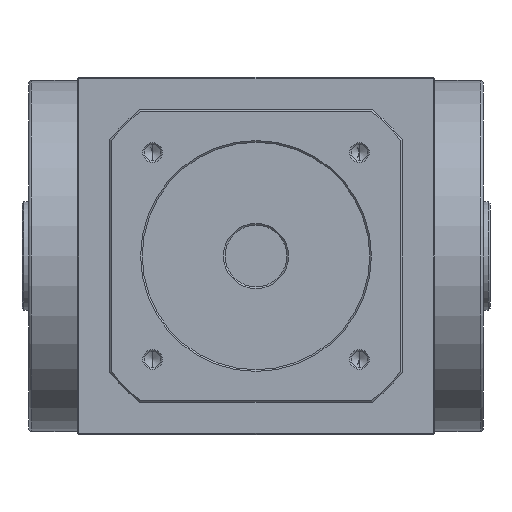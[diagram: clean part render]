
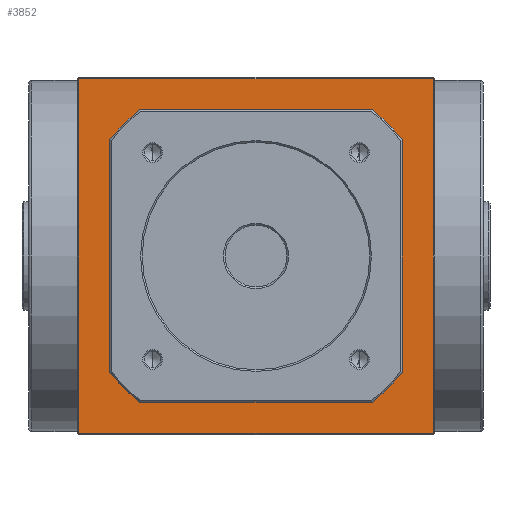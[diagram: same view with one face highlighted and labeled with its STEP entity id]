
A CAD part, front view. The second image highlights one B-rep face of the part: STEP entity #3852.
In plain terms, the highlighted planar face has unit normal (0, -1, 0).
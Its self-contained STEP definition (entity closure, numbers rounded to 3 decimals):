
#112 = VECTOR ( 'NONE', #7198, 1000. ) ;
#231 = EDGE_CURVE ( 'NONE', #8679, #5402, #8681, .T. ) ;
#237 = CARTESIAN_POINT ( 'NONE',  ( 54.5, -55., 54.5 ) ) ;
#287 = EDGE_LOOP ( 'NONE', ( #7212, #5351, #7561, #3769 ) ) ;
#468 = CARTESIAN_POINT ( 'NONE',  ( 0., -55., 0. ) ) ;
#514 = CARTESIAN_POINT ( 'NONE',  ( -45., -55., -35.795 ) ) ;
#528 = AXIS2_PLACEMENT_3D ( 'NONE', #468, #8018, #3981 ) ;
#649 = EDGE_CURVE ( 'NONE', #3460, #3604, #3601, .T. ) ;
#729 = LINE ( 'NONE', #3576, #4612 ) ;
#782 = DIRECTION ( 'NONE',  ( 0., -1., 0. ) ) ;
#880 = DIRECTION ( 'NONE',  ( 0., 0., -1. ) ) ;
#910 = CARTESIAN_POINT ( 'NONE',  ( 55., -55., -54.5 ) ) ;
#962 = EDGE_CURVE ( 'NONE', #3604, #5802, #3587, .T. ) ;
#1121 = VECTOR ( 'NONE', #2288, 1000. ) ;
#1140 = ORIENTED_EDGE ( 'NONE', *, *, #4787, .F. ) ;
#1145 = AXIS2_PLACEMENT_3D ( 'NONE', #2861, #782, #880 ) ;
#1239 = CARTESIAN_POINT ( 'NONE',  ( 45., -55., -35.795 ) ) ;
#1272 = DIRECTION ( 'NONE',  ( 0., 0., 1. ) ) ;
#1367 = DIRECTION ( 'NONE',  ( -1., 0., 0. ) ) ;
#1485 = CIRCLE ( 'NONE', #5918, 57.5 ) ;
#1486 = DIRECTION ( 'NONE',  ( 0., 0., 1. ) ) ;
#1598 = CARTESIAN_POINT ( 'NONE',  ( 0., -55., 0. ) ) ;
#1725 = PLANE ( 'NONE',  #4524 ) ;
#1805 = DIRECTION ( 'NONE',  ( 0., 0., 1. ) ) ;
#1850 = CARTESIAN_POINT ( 'NONE',  ( -45., -55., 35.795 ) ) ;
#1870 = CARTESIAN_POINT ( 'NONE',  ( -54.5, -55., 54.5 ) ) ;
#1920 = ORIENTED_EDGE ( 'NONE', *, *, #5843, .F. ) ;
#2193 = CARTESIAN_POINT ( 'NONE',  ( 54.5, -55., -54.5 ) ) ;
#2206 = VERTEX_POINT ( 'NONE', #7118 ) ;
#2223 = DIRECTION ( 'NONE',  ( 0., 0., -1. ) ) ;
#2266 = DIRECTION ( 'NONE',  ( 0., -1., 0. ) ) ;
#2288 = DIRECTION ( 'NONE',  ( 0., 0., -1. ) ) ;
#2319 = VECTOR ( 'NONE', #1272, 1000. ) ;
#2663 = CARTESIAN_POINT ( 'NONE',  ( 54.5, -55., 55. ) ) ;
#2675 = CIRCLE ( 'NONE', #3253, 57.5 ) ;
#2714 = VERTEX_POINT ( 'NONE', #6323 ) ;
#2861 = CARTESIAN_POINT ( 'NONE',  ( 0., -55., 0. ) ) ;
#3090 = EDGE_CURVE ( 'NONE', #5802, #6025, #3840, .T. ) ;
#3253 = AXIS2_PLACEMENT_3D ( 'NONE', #1598, #2266, #4299 ) ;
#3362 = CARTESIAN_POINT ( 'NONE',  ( -55., -55., 54.5 ) ) ;
#3368 = VECTOR ( 'NONE', #1367, 1000. ) ;
#3460 = VERTEX_POINT ( 'NONE', #7731 ) ;
#3524 = VECTOR ( 'NONE', #8756, 1000. ) ;
#3576 = CARTESIAN_POINT ( 'NONE',  ( -54.5, -55., 55. ) ) ;
#3587 = LINE ( 'NONE', #2663, #2319 ) ;
#3601 = LINE ( 'NONE', #910, #4236 ) ;
#3604 = VERTEX_POINT ( 'NONE', #2193 ) ;
#3756 = EDGE_CURVE ( 'NONE', #6025, #3460, #729, .T. ) ;
#3769 = ORIENTED_EDGE ( 'NONE', *, *, #962, .T. ) ;
#3814 = CARTESIAN_POINT ( 'NONE',  ( -35.795, -55., -45. ) ) ;
#3840 = LINE ( 'NONE', #3362, #3524 ) ;
#3852 = ADVANCED_FACE ( 'NONE', ( #5555, #4206 ), #1725, .F. ) ;
#3958 = VERTEX_POINT ( 'NONE', #1850 ) ;
#3981 = DIRECTION ( 'NONE',  ( 0., 0., -1. ) ) ;
#4194 = CARTESIAN_POINT ( 'NONE',  ( -35.795, -55., 45. ) ) ;
#4206 = FACE_BOUND ( 'NONE', #5693, .T. ) ;
#4236 = VECTOR ( 'NONE', #6290, 1000. ) ;
#4299 = DIRECTION ( 'NONE',  ( 0., 0., -1. ) ) ;
#4524 = AXIS2_PLACEMENT_3D ( 'NONE', #6442, #8504, #1805 ) ;
#4612 = VECTOR ( 'NONE', #2223, 1000. ) ;
#4712 = EDGE_CURVE ( 'NONE', #5725, #8679, #4799, .T. ) ;
#4787 = EDGE_CURVE ( 'NONE', #3958, #7106, #8406, .T. ) ;
#4799 = CIRCLE ( 'NONE', #1145, 57.5 ) ;
#4929 = VERTEX_POINT ( 'NONE', #4194 ) ;
#4964 = CARTESIAN_POINT ( 'NONE',  ( -45., -55., 35.795 ) ) ;
#5053 = ORIENTED_EDGE ( 'NONE', *, *, #8071, .F. ) ;
#5169 = VECTOR ( 'NONE', #1486, 1000. ) ;
#5224 = CARTESIAN_POINT ( 'NONE',  ( 0., -55., 0. ) ) ;
#5231 = EDGE_CURVE ( 'NONE', #5402, #2206, #7319, .T. ) ;
#5351 = ORIENTED_EDGE ( 'NONE', *, *, #3756, .T. ) ;
#5376 = CARTESIAN_POINT ( 'NONE',  ( -35.795, -55., 45. ) ) ;
#5402 = VERTEX_POINT ( 'NONE', #7297 ) ;
#5494 = CARTESIAN_POINT ( 'NONE',  ( 45., -55., 35.795 ) ) ;
#5555 = FACE_OUTER_BOUND ( 'NONE', #287, .T. ) ;
#5693 = EDGE_LOOP ( 'NONE', ( #7178, #5995, #6177, #8428, #1920, #1140, #5053, #8502 ) ) ;
#5725 = VERTEX_POINT ( 'NONE', #7443 ) ;
#5802 = VERTEX_POINT ( 'NONE', #237 ) ;
#5843 = EDGE_CURVE ( 'NONE', #7106, #2714, #2675, .T. ) ;
#5918 = AXIS2_PLACEMENT_3D ( 'NONE', #5224, #6548, #7898 ) ;
#5995 = ORIENTED_EDGE ( 'NONE', *, *, #231, .F. ) ;
#6025 = VERTEX_POINT ( 'NONE', #1870 ) ;
#6177 = ORIENTED_EDGE ( 'NONE', *, *, #4712, .F. ) ;
#6290 = DIRECTION ( 'NONE',  ( 1., 0., 0. ) ) ;
#6323 = CARTESIAN_POINT ( 'NONE',  ( -35.795, -55., -45. ) ) ;
#6442 = CARTESIAN_POINT ( 'NONE',  ( -55., -55., 55. ) ) ;
#6548 = DIRECTION ( 'NONE',  ( 0., -1., 0. ) ) ;
#7106 = VERTEX_POINT ( 'NONE', #514 ) ;
#7118 = CARTESIAN_POINT ( 'NONE',  ( 35.795, -55., 45. ) ) ;
#7178 = ORIENTED_EDGE ( 'NONE', *, *, #5231, .F. ) ;
#7198 = DIRECTION ( 'NONE',  ( 1., 0., 0. ) ) ;
#7212 = ORIENTED_EDGE ( 'NONE', *, *, #3090, .T. ) ;
#7297 = CARTESIAN_POINT ( 'NONE',  ( 45., -55., 35.795 ) ) ;
#7319 = CIRCLE ( 'NONE', #528, 57.5 ) ;
#7341 = EDGE_CURVE ( 'NONE', #2206, #4929, #7379, .T. ) ;
#7379 = LINE ( 'NONE', #5376, #3368 ) ;
#7443 = CARTESIAN_POINT ( 'NONE',  ( 35.795, -55., -45. ) ) ;
#7561 = ORIENTED_EDGE ( 'NONE', *, *, #649, .T. ) ;
#7592 = EDGE_CURVE ( 'NONE', #2714, #5725, #8362, .T. ) ;
#7731 = CARTESIAN_POINT ( 'NONE',  ( -54.5, -55., -54.5 ) ) ;
#7898 = DIRECTION ( 'NONE',  ( 0., 0., -1. ) ) ;
#8018 = DIRECTION ( 'NONE',  ( 0., -1., 0. ) ) ;
#8071 = EDGE_CURVE ( 'NONE', #4929, #3958, #1485, .T. ) ;
#8362 = LINE ( 'NONE', #3814, #112 ) ;
#8406 = LINE ( 'NONE', #4964, #1121 ) ;
#8428 = ORIENTED_EDGE ( 'NONE', *, *, #7592, .F. ) ;
#8502 = ORIENTED_EDGE ( 'NONE', *, *, #7341, .F. ) ;
#8504 = DIRECTION ( 'NONE',  ( 0., 1., 0. ) ) ;
#8679 = VERTEX_POINT ( 'NONE', #1239 ) ;
#8681 = LINE ( 'NONE', #5494, #5169 ) ;
#8756 = DIRECTION ( 'NONE',  ( -1., 0., 0. ) ) ;
